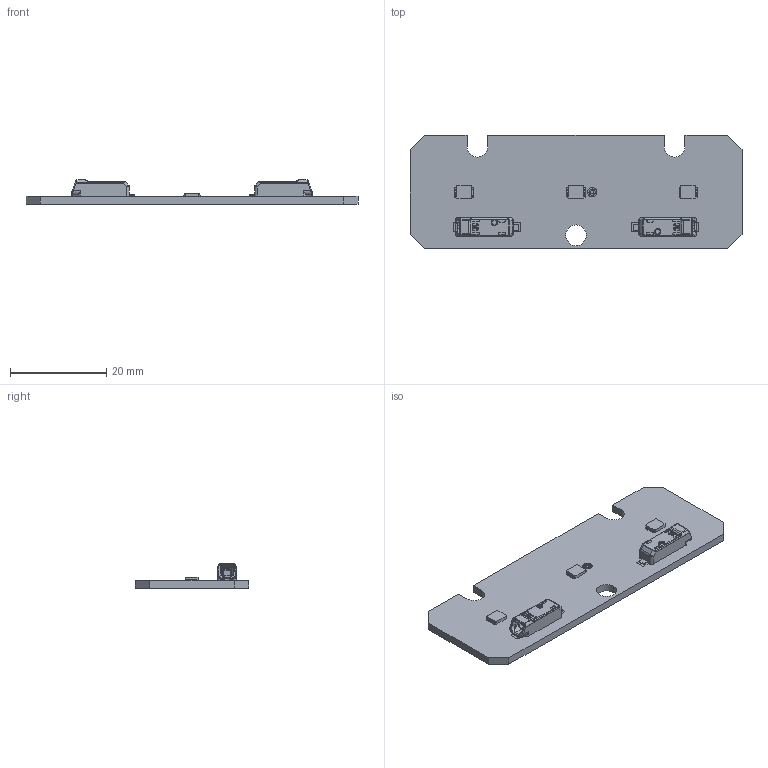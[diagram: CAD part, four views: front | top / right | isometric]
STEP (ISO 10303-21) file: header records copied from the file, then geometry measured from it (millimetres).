
FILE_DESCRIPTION((''),'2;1');
FILE_NAME('16212205_LLE-G6-24X70-160LM','2022-11-29T13:49:51',('Bernhard.Fink'),(''),'CREO PARAMETRIC BY PTC INC, 2021184','CREO PARAMETRIC BY PTC INC, 2021184','');
FILE_SCHEMA(('CONFIG_CONTROL_DESIGN'));
Products named in the file (1): 16212205_LLE-G6-24X70-160LM
Bounding box: 69 x 23.6 x 5.1 mm (x, y, z)
Volume: 2592.7 mm3; surface area: 4004 mm2
Topology: 1 solids, 9 shells, 658 faces, 1864 edges, 1208 vertices
Faces by surface type: plane 306, cylinder 178, bspline 100, cone 34, torus 20, sphere 20
Entity records: 54542 total; most frequent: CARTESIAN_POINT 39088, ORIENTED_EDGE 3452, DIRECTION 2620, EDGE_CURVE 1856, VERTEX_POINT 1206, VECTOR 1030, LINE 1030, AXIS2_PLACEMENT_3D 795
